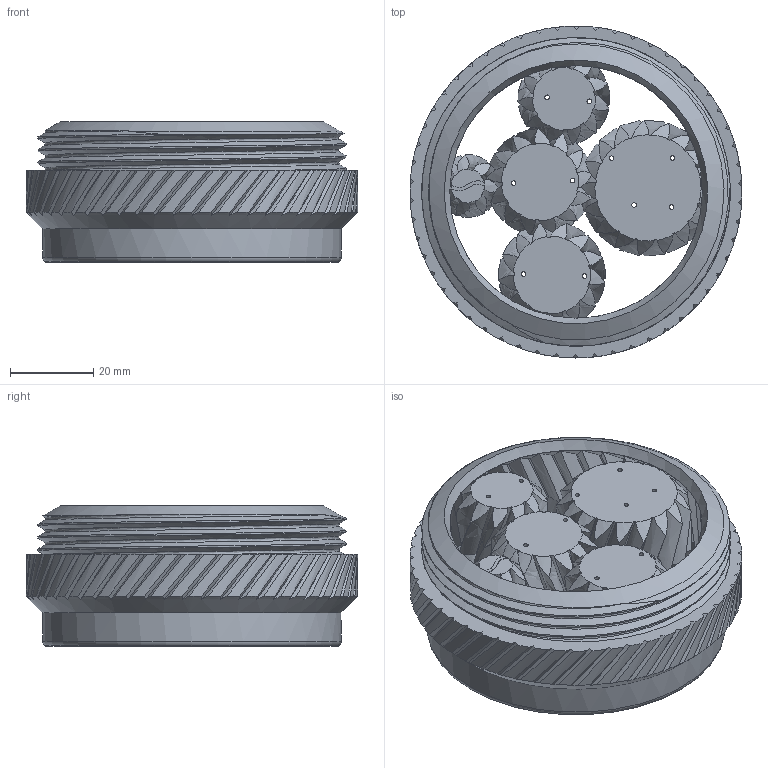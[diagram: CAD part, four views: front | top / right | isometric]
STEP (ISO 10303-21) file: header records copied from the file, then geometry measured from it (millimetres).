
FILE_DESCRIPTION(/* description */ ('STEP AP242','CAx-IF Rec.Pracs.---Representation and Presentation of Product Manufacturing Information (PMI)---4.0---2014-10-13','CAx-IF Rec.Pracs.---3D Tessellated Geometry---0.4---2014-09-14','2;1'),/* implementation_level */ '2;1');
FILE_NAME(/* name */ '64a645fe375f73530642e71c',/* time_stamp */ '2023-07-06T04:41:36Z',/* author */ (''),/* organization */ (''),/* preprocessor_version */ 'ST-DEVELOPER v19.4',/* originating_system */ ' ',/* authorisation */ ' ');
FILE_SCHEMA (('AP242_MANAGED_MODEL_BASED_3D_ENGINEERING_MIM_LF { 1 0 10303 442 1 1 4 }'));
Length unit declared in the file: metre
Products named in the file (6): id2; id5; id8; id11; id14; id17
Bounding box: 79.6 x 79.6 x 33.65 mm (x, y, z)
Volume: 90874.4 mm3; surface area: 47252 mm2
Topology: 6 solids, 6 shells, 910 faces, 2432 edges, 1538 vertices
Faces by surface type: bspline 627, cone 143, cylinder 119, plane 20, torus 1
Full cylindrical faces by diameter (mm): 1.1 x10, 1.8 x10, 2.8 x4, 71.6 x1
Entity records: 116529 total; most frequent: CARTESIAN_POINT 99926, ORIENTED_EDGE 4758, EDGE_CURVE 2379, DIRECTION 1698, VERTEX_POINT 1531, B_SPLINE_CURVE_WITH_KNOTS 1404, EDGE_LOOP 982, FACE_BOUND 982
